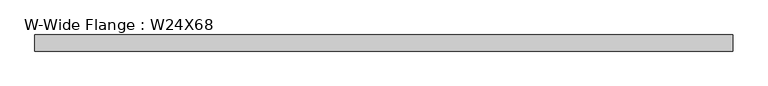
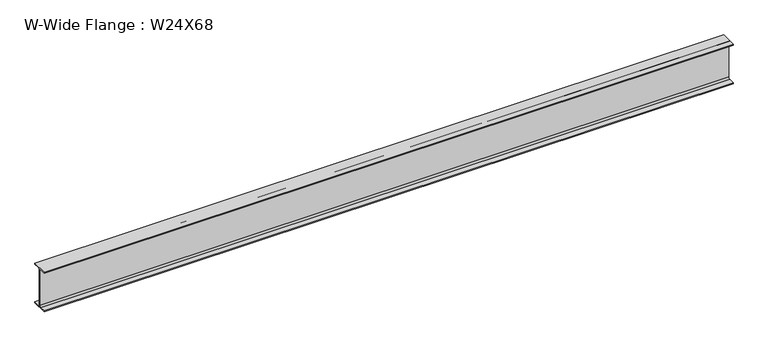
"""IFC4 building model written with IfcOpenShell, lengths in millimetres: beam geometry, W-Wide Flange : W24X68."""

from ifc_helpers import new_model, si_unit, point, frame, frame_2d, origin, place, context, project, spatial, polyline, circle_curve, trimmed, segment, composite_curve, outline, extrude, source, transform, mapped, element, save


def w_wide_flange_w24x68_a18b2e65(model_context):
    return source(origin(), model_context, "Body", "SweptSolid", [
        extrude(outline(composite_curve([segment(polyline([(113.919, -286.131), (113.919, -300.99), (-113.919, -300.99), (-113.919, -286.131), (-28.5115, -286.131)]), True, "CONTINUOUS"), segment(trimmed(circle_curve(frame_2d((-28.5115, -262.89)), 23.241), [point((-28.5115, -286.131))], [point((-5.2705, -262.89))], True, "CARTESIAN"), True, "CONTINUOUS"), segment(polyline([(-5.2705, -262.89), (-5.2705, 262.89)]), True, "CONTINUOUS"), segment(trimmed(circle_curve(frame_2d((-28.5115, 262.89)), 23.241), [point((-5.2705, 262.89))], [point((-28.5115, 286.131))], True, "CARTESIAN"), True, "CONTINUOUS"), segment(polyline([(-28.5115, 286.131), (-113.919, 286.131), (-113.919, 300.99), (113.919, 300.99), (113.919, 286.131), (28.5115, 286.131)]), True, "CONTINUOUS"), segment(trimmed(circle_curve(frame_2d((28.5115, 262.89)), 23.241), [point((28.5115, 286.131))], [point((5.2705, 262.89))], True, "CARTESIAN"), True, "CONTINUOUS"), segment(polyline([(5.2705, 262.89), (5.2705, -262.89)]), True, "CONTINUOUS"), segment(trimmed(circle_curve(frame_2d((28.5115, -262.89)), 23.241), [point((5.2705, -262.89))], [point((28.5115, -286.131))], True, "CARTESIAN"), True, "CONTINUOUS"), segment(polyline([(28.5115, -286.131), (113.919, -286.131)]), True, "CONTINUOUS")], self_intersect=False)), frame((-4913.63, 0.0, 0.0), z_axis=(1.0, 0.0, 0.0), x_axis=(0.0, 1.0, 0.0)), (0.0, 0.0, 1.0), 9867.011),
    ])


if __name__ == "__main__":
    model = new_model("IFC4")
    model_context = context("Model", 3, world=origin())
    ifc_project = project(units=[si_unit("LENGTHUNIT", "METRE", prefix="MILLI")], contexts=[model_context])
    site = spatial("IfcSite", under=ifc_project)
    building = spatial("IfcBuilding", under=site)
    placement = place(None, origin())
    w_wide_flange_w24x68_shape = w_wide_flange_w24x68_a18b2e65(model_context)
    element("IfcBeam", 1, ObjectType="W-Wide Flange : W24X68", at=placement, inside=building, context=model_context, shape_type="MappedRepresentation", body=[
        mapped(w_wide_flange_w24x68_shape, transform((0.0, 0.0, 0.0), x_axis=(1.0, 0.0, 0.0), y_axis=(0.0, 1.0, 0.0), z_axis=(0.0, 0.0, 1.0))),
    ])
    save(model, "model.ifc")
